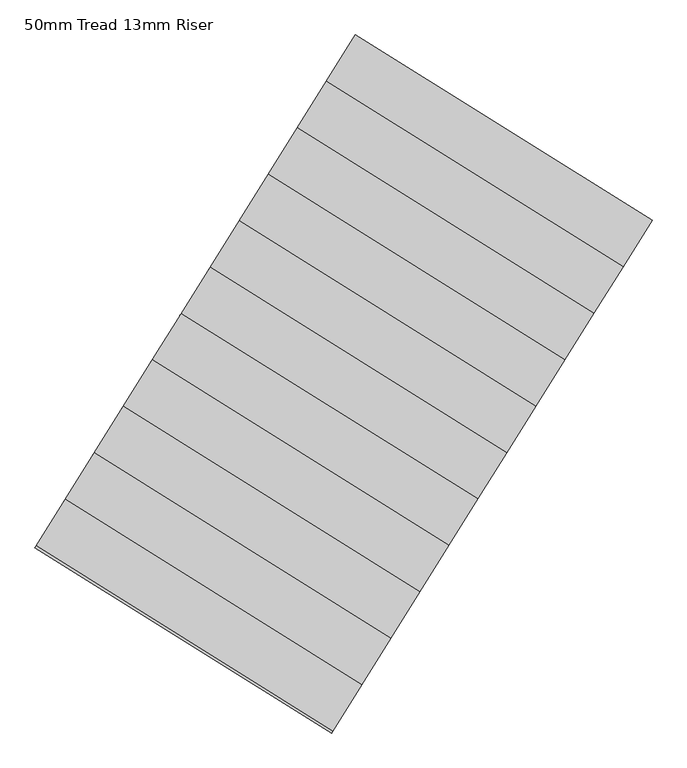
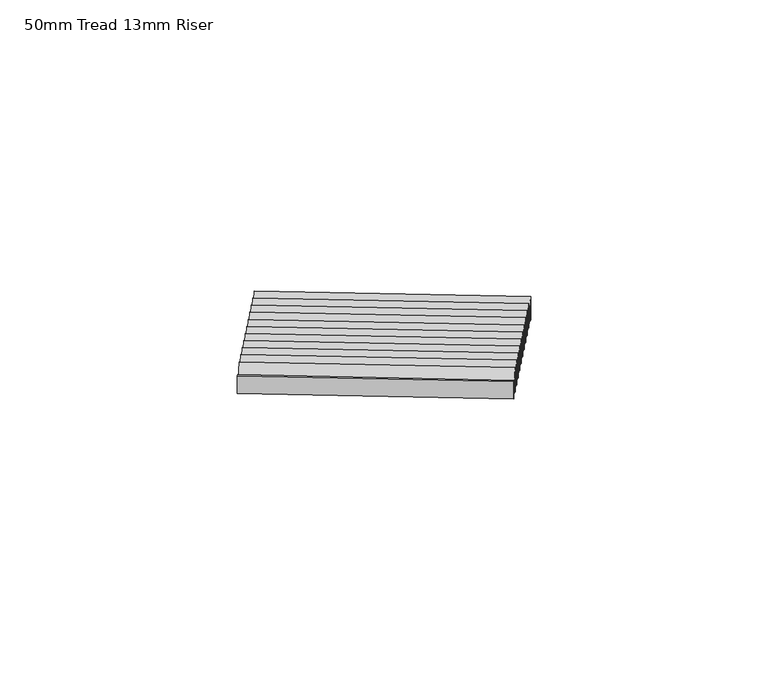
"""IFC4 building model written with IfcOpenShell, lengths in millimetres: stair flight geometry, 50mm Tread 13mm Riser."""

from ifc_helpers import new_model, si_unit, frame, origin, place, context, project, spatial, polyline, outline, extrude, source, transform, mapped, element, save


def stair_flight_50mm_tread_13mm_riser_c05f2f23(model_context):
    return source(origin(), model_context, "Body", "SweptSolid", [
        extrude(outline(polyline([(47669.3716119, -50555.0585154), (47675.9956027, -50544.4579142), (49301.8555649, -51560.4079751), (49295.2315741, -51571.0085763), (47669.3716119, -50555.0585154)])), frame((0.0, 0.0, 1750.0), z_axis=(0.0, 0.0, 1.0), x_axis=(1.0, 0.0, 0.0)), (0.0, 0.0, 1.0), 150.0),
        extrude(outline(polyline([(49142.8797856, -51814.8224039), (47517.0198234, -50798.872343), (47675.9956027, -50544.4579142), (49301.8555649, -51560.4079751), (49142.8797856, -51814.8224039)])), frame((0.0, 0.0, 1900.0), z_axis=(0.0, 0.0, 1.0), x_axis=(1.0, 0.0, 0.0)), (0.0, 0.0, 1.0), 50.0),
        extrude(outline(polyline([(47510.3958326, -50809.4729442), (47517.0198234, -50798.872343), (49142.8797856, -51814.8224039), (49136.2557948, -51825.4230051), (47510.3958326, -50809.4729442)])), frame((0.0, 0.0, 1900.0), z_axis=(0.0, 0.0, 1.0), x_axis=(1.0, 0.0, 0.0)), (0.0, 0.0, 1.0), 150.0),
        extrude(outline(polyline([(48983.9040063, -52069.2368327), (47358.0440441, -51053.2867719), (47517.0198234, -50798.872343), (49142.8797856, -51814.8224039), (48983.9040063, -52069.2368327)])), frame((0.0, 0.0, 2050.0), z_axis=(0.0, 0.0, 1.0), x_axis=(1.0, 0.0, 0.0)), (0.0, 0.0, 1.0), 50.0),
        extrude(outline(polyline([(47351.4200533, -51063.8873731), (47358.0440441, -51053.2867719), (48983.9040063, -52069.2368327), (48977.2800155, -52079.837434), (47351.4200533, -51063.8873731)])), frame((0.0, 0.0, 2050.0), z_axis=(0.0, 0.0, 1.0), x_axis=(1.0, 0.0, 0.0)), (0.0, 0.0, 1.0), 150.0),
        extrude(outline(polyline([(48824.9282271, -52323.6512616), (47199.0682649, -51307.7012007), (47358.0440441, -51053.2867719), (48983.9040063, -52069.2368327), (48824.9282271, -52323.6512616)])), frame((0.0, 0.0, 2200.0), z_axis=(0.0, 0.0, 1.0), x_axis=(1.0, 0.0, 0.0)), (0.0, 0.0, 1.0), 50.0),
        extrude(outline(polyline([(47192.4442741, -51318.3018019), (47199.0682649, -51307.7012007), (48824.9282271, -52323.6512616), (48818.3042363, -52334.2518628), (47192.4442741, -51318.3018019)])), frame((0.0, 0.0, 2200.0), z_axis=(0.0, 0.0, 1.0), x_axis=(1.0, 0.0, 0.0)), (0.0, 0.0, 1.0), 150.0),
        extrude(outline(polyline([(48665.9524478, -52578.0656904), (47040.0924856, -51562.1156296), (47199.0682649, -51307.7012007), (48824.9282271, -52323.6512616), (48665.9524478, -52578.0656904)])), frame((0.0, 0.0, 2350.0), z_axis=(0.0, 0.0, 1.0), x_axis=(1.0, 0.0, 0.0)), (0.0, 0.0, 1.0), 50.0),
        extrude(outline(polyline([(47033.4684948, -51572.7162308), (47040.0924856, -51562.1156296), (48665.9524478, -52578.0656904), (48659.328457, -52588.6662916), (47033.4684948, -51572.7162308)])), frame((0.0, 0.0, 2350.0), z_axis=(0.0, 0.0, 1.0), x_axis=(1.0, 0.0, 0.0)), (0.0, 0.0, 1.0), 150.0),
        extrude(outline(polyline([(48506.9766685, -52832.4801193), (46881.1167063, -51816.5300584), (47040.0924856, -51562.1156296), (48665.9524478, -52578.0656904), (48506.9766685, -52832.4801193)])), frame((0.0, 0.0, 2500.0), z_axis=(0.0, 0.0, 1.0), x_axis=(1.0, 0.0, 0.0)), (0.0, 0.0, 1.0), 50.0),
        extrude(outline(polyline([(46874.4927155, -51827.1306596), (46881.1167063, -51816.5300584), (48506.9766685, -52832.4801193), (48500.3526777, -52843.0807205), (46874.4927155, -51827.1306596)])), frame((0.0, 0.0, 2500.0), z_axis=(0.0, 0.0, 1.0), x_axis=(1.0, 0.0, 0.0)), (0.0, 0.0, 1.0), 150.0),
        extrude(outline(polyline([(48348.0008893, -53086.8945481), (46722.140927, -52070.9444872), (46881.1167063, -51816.5300584), (48506.9766685, -52832.4801193), (48348.0008893, -53086.8945481)])), frame((0.0, 0.0, 2650.0), z_axis=(0.0, 0.0, 1.0), x_axis=(1.0, 0.0, 0.0)), (0.0, 0.0, 1.0), 50.0),
        extrude(outline(polyline([(46715.5169362, -52081.5450885), (46722.140927, -52070.9444872), (48348.0008893, -53086.8945481), (48341.3768985, -53097.4951493), (46715.5169362, -52081.5450885)])), frame((0.0, 0.0, 2650.0), z_axis=(0.0, 0.0, 1.0), x_axis=(1.0, 0.0, 0.0)), (0.0, 0.0, 1.0), 150.0),
        extrude(outline(polyline([(48189.02511, -53341.308977), (46563.1651478, -52325.3589161), (46722.140927, -52070.9444872), (48348.0008893, -53086.8945481), (48189.02511, -53341.308977)])), frame((0.0, 0.0, 2800.0), z_axis=(0.0, 0.0, 1.0), x_axis=(1.0, 0.0, 0.0)), (0.0, 0.0, 1.0), 50.0),
        extrude(outline(polyline([(46556.541157, -52335.9595173), (46563.1651478, -52325.3589161), (48189.02511, -53341.308977), (48182.4011192, -53351.9095782), (46556.541157, -52335.9595173)])), frame((0.0, 0.0, 2800.0), z_axis=(0.0, 0.0, 1.0), x_axis=(1.0, 0.0, 0.0)), (0.0, 0.0, 1.0), 150.0),
        extrude(outline(polyline([(48030.0493307, -53595.7234058), (46404.1893685, -52579.7733449), (46563.1651478, -52325.3589161), (48189.02511, -53341.308977), (48030.0493307, -53595.7234058)])), frame((0.0, 0.0, 2950.0), z_axis=(0.0, 0.0, 1.0), x_axis=(1.0, 0.0, 0.0)), (0.0, 0.0, 1.0), 50.0),
        extrude(outline(polyline([(46397.5653777, -52590.3739461), (46404.1893685, -52579.7733449), (48030.0493307, -53595.7234058), (48023.4253399, -53606.324007), (46397.5653777, -52590.3739461)])), frame((0.0, 0.0, 2950.0), z_axis=(0.0, 0.0, 1.0), x_axis=(1.0, 0.0, 0.0)), (0.0, 0.0, 1.0), 150.0),
        extrude(outline(polyline([(47871.0735515, -53850.1378347), (46245.2135892, -52834.1877738), (46404.1893685, -52579.7733449), (48030.0493307, -53595.7234058), (47871.0735515, -53850.1378347)])), frame((0.0, 0.0, 3100.0), z_axis=(0.0, 0.0, 1.0), x_axis=(1.0, 0.0, 0.0)), (0.0, 0.0, 1.0), 50.0),
        extrude(outline(polyline([(46238.5895984, -52844.788375), (46245.2135892, -52834.1877738), (47871.0735515, -53850.1378347), (47864.4495607, -53860.7384359), (46238.5895984, -52844.788375)])), frame((0.0, 0.0, 3100.0), z_axis=(0.0, 0.0, 1.0), x_axis=(1.0, 0.0, 0.0)), (0.0, 0.0, 1.0), 150.0),
        extrude(outline(polyline([(47712.0977722, -54104.5522635), (46086.23781, -53088.6022026), (46245.2135892, -52834.1877738), (47871.0735515, -53850.1378347), (47712.0977722, -54104.5522635)])), frame((0.0, 0.0, 3250.0), z_axis=(0.0, 0.0, 1.0), x_axis=(1.0, 0.0, 0.0)), (0.0, 0.0, 1.0), 50.0),
        extrude(outline(polyline([(46079.6138192, -53099.2028038), (46086.23781, -53088.6022026), (47712.0977722, -54104.5522635), (47705.4737814, -54115.1528647), (46079.6138192, -53099.2028038)])), frame((0.0, 0.0, 3250.0), z_axis=(0.0, 0.0, 1.0), x_axis=(1.0, 0.0, 0.0)), (0.0, 0.0, 1.0), 150.0),
        extrude(outline(polyline([(45920.6380399, -53353.6172327), (45927.2620307, -53343.0166315), (47553.1219929, -54358.9666924), (47546.4980021, -54369.5672936), (45920.6380399, -53353.6172327)])), frame((0.0, 0.0, 3400.0), z_axis=(0.0, 0.0, 1.0), x_axis=(1.0, 0.0, 0.0)), (0.0, 0.0, 1.0), 150.0),
        extrude(outline(polyline([(47553.1219929, -54358.9666924), (45927.2620307, -53343.0166315), (46086.23781, -53088.6022026), (47712.0977722, -54104.5522635), (47553.1219929, -54358.9666924)])), frame((0.0, 0.0, 3400.0), z_axis=(0.0, 0.0, 1.0), x_axis=(1.0, 0.0, 0.0)), (0.0, 0.0, 1.0), 50.0),
    ])


if __name__ == "__main__":
    model = new_model("IFC4")
    model_context = context("Model", 3, world=origin())
    ifc_project = project(units=[si_unit("LENGTHUNIT", "METRE", prefix="MILLI")], contexts=[model_context])
    site = spatial("IfcSite", under=ifc_project)
    building = spatial("IfcBuilding", under=site)
    placement = place(None, origin())
    stair_flight_50mm_tread_13mm_riser_shape = stair_flight_50mm_tread_13mm_riser_c05f2f23(model_context)
    element("IfcStairFlight", 1, ObjectType="50mm Tread 13mm Riser", at=placement, inside=building, context=model_context, shape_type="MappedRepresentation", body=[
        mapped(stair_flight_50mm_tread_13mm_riser_shape, transform((0.0, 0.0, 0.0), x_axis=(1.0, 0.0, 0.0), y_axis=(0.0, 1.0, 0.0), z_axis=(0.0, 0.0, 1.0))),
    ])
    save(model, "model.ifc")
